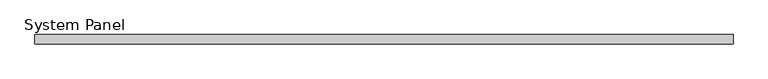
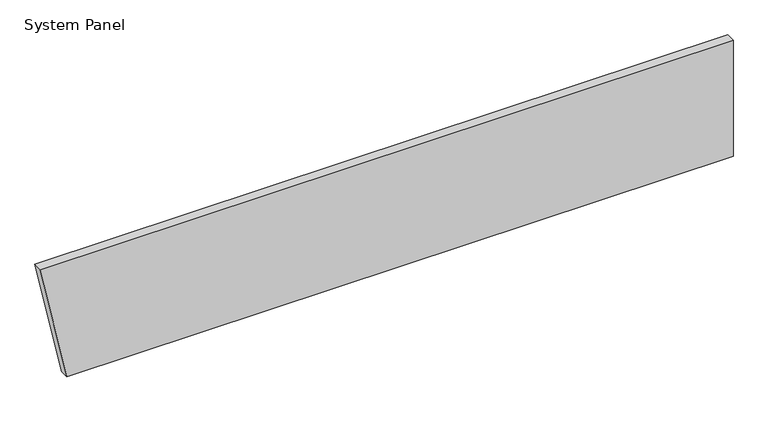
"""IFC4 building model written with IfcOpenShell, lengths in millimetres: plate geometry, System Panel : InsulWall_90mm_Plain_Surfmist."""

from ifc_helpers import new_model, si_unit, frame, origin, place, context, project, spatial, polyline, outline, extrude, source, transform, mapped, element, save


def system_panel_3725e668(model_context):
    return source(origin(), model_context, "Body", "SweptSolid", [
        extrude(outline(polyline([(0.0, -3125.4358309), (0.0, 3386.3074928), (1200.0, 3386.3074928), (1200.0, -3386.3074928), (0.0, -3125.4358309)])), frame((0.0, -90.0, 0.0), z_axis=(0.0, 1.0, 0.0), x_axis=(0.0, 0.0, 1.0)), (0.0, 0.0, 1.0), 90.0),
    ])


if __name__ == "__main__":
    model = new_model("IFC4")
    model_context = context("Model", 3, world=origin())
    ifc_project = project(units=[si_unit("LENGTHUNIT", "METRE", prefix="MILLI")], contexts=[model_context])
    site = spatial("IfcSite", under=ifc_project)
    building = spatial("IfcBuilding", under=site)
    placement = place(None, origin())
    system_panel_shape = system_panel_3725e668(model_context)
    element("IfcPlate", 1, ObjectType="System Panel : InsulWall_90mm_Plain_Surfmist", at=placement, inside=building, context=model_context, shape_type="MappedRepresentation", body=[
        mapped(system_panel_shape, transform((0.0, 0.0, 0.0), x_axis=(1.0, 0.0, 0.0), y_axis=(0.0, 1.0, 0.0), z_axis=(0.0, 0.0, 1.0))),
    ])
    save(model, "model.ifc")
